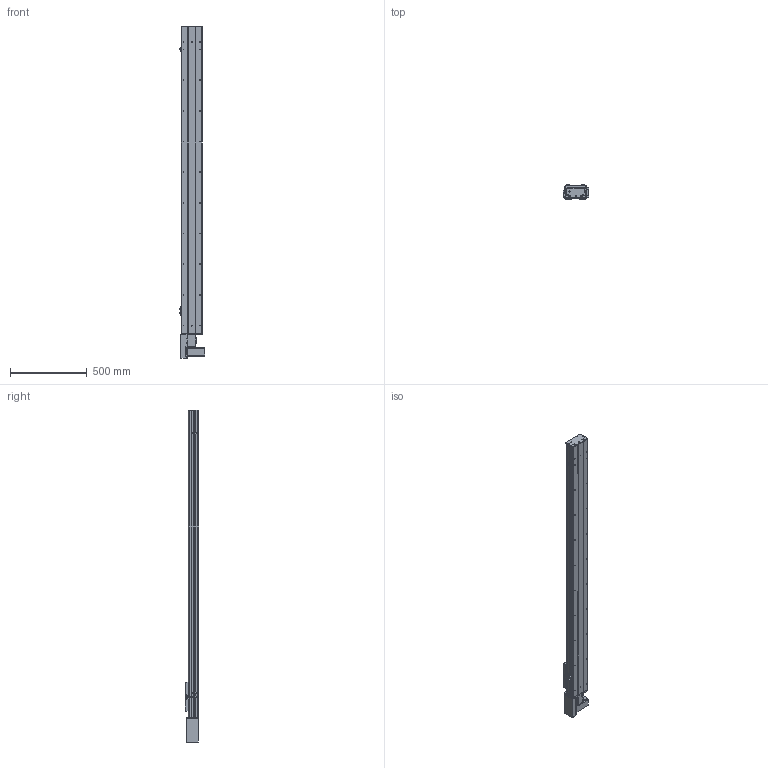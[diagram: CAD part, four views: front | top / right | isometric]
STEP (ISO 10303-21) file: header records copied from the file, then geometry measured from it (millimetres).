
FILE_DESCRIPTION (( 'STEP AP203' ), '1' );
FILE_NAME ('Y135CB-D90-S1700-BR-P400W.STEP', '2020-02-18T02:48:36', ( '微软用户' ), ( '微软中国' ), 'SwSTEP 2.0', 'SolidWorks 2017', '' );
FILE_SCHEMA (( 'CONFIG_CONTROL_DESIGN' ));
Length unit declared in the file: millimetre
Products named in the file (18): C-雄赽釱--; 0B-萇儂楊擘啣; Y10B--々湍喘謫眊--666; san松下电机400不带刹车----; Y135CB-耜裔; Y135CB-D90-S1700-BR-P400W; 5CB --掛极耜裔啣-; 135CB---遴掛极.-; C-詩湍揤踡え-陔; 35CB---喘謫眊楊擘啣; 135CB--詩湍-CE; Y10B-耜蚾蟀諉啣----; Y100-135俋离換覜ん--; Y俋欶BR----; Y135C-陔俋离換覜結え-; 0B-埴倛裔啣; 5C--俋欶; 0B-源倛裔啣
Assembly tree (21 placements, depth 2):
  Y135CB-D90-S1700-BR-P400W
    Y135CB-耜裔
    135CB---遴掛极.-
    35CB---喘謫眊楊擘啣
    Y10B-耜蚾蟀諉啣----
    Y俋欶BR----
    0B-埴倛裔啣
    0B-源倛裔啣
    0B-萇儂楊擘啣
    san松下电机400不带刹车----
    5CB --掛极耜裔啣-  x2
    C-詩湍揤踡え-陔  x2
    135CB--詩湍-CE
    Y100-135俋离換覜ん--  x3
    Y135C-陔俋离換覜結え-
    5C--俋欶
    C-雄赽釱--
    Y10B--々湍喘謫眊--666
Bounding box: 167.5 x 91 x 2164.5 mm (x, y, z)
Volume: 6205026.3 mm3; surface area: 2447142.9 mm2
Topology: 21 solids, 21 shells, 961 faces, 2599 edges, 1722 vertices
Faces by surface type: cylinder 487, plane 458, cone 16
Entity records: 30149 total; most frequent: DIRECTION 5007, CARTESIAN_POINT 4988, ORIENTED_EDGE 4674, EDGE_CURVE 2337, AXIS2_PLACEMENT_3D 1829, VERTEX_POINT 1550, VECTOR 1349, LINE 1349
